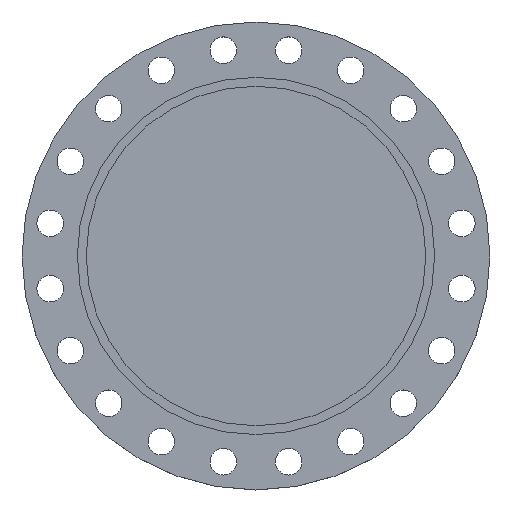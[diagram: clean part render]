
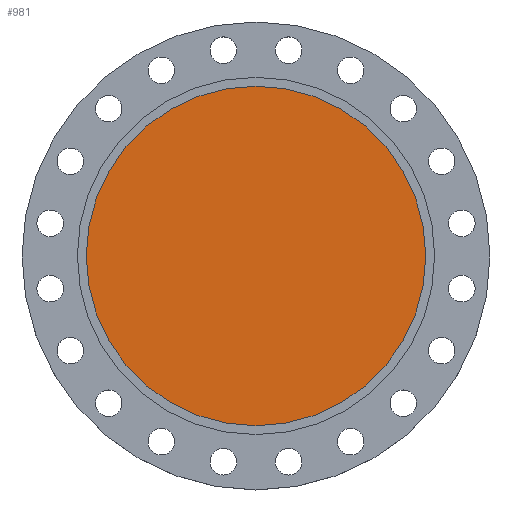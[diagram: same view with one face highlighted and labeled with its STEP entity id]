
A CAD part, top view. The second image highlights one B-rep face of the part: STEP entity #981.
In plain terms, the highlighted planar face has unit normal (0, 0, 1).
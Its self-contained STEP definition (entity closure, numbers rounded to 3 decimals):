
#68 = CIRCLE ( 'NONE', #866, 248.5 ) ;
#101 = DIRECTION ( 'NONE',  ( 0., 0., -1. ) ) ;
#290 = CARTESIAN_POINT ( 'NONE',  ( -248.5, 0., -5.5 ) ) ;
#291 = CARTESIAN_POINT ( 'NONE',  ( 0., 0., -5.5 ) ) ;
#458 = AXIS2_PLACEMENT_3D ( 'NONE', #1299, #1263, #1229 ) ;
#532 = VERTEX_POINT ( 'NONE', #290 ) ;
#684 = EDGE_LOOP ( 'NONE', ( #787, #783 ) ) ;
#783 = ORIENTED_EDGE ( 'NONE', *, *, #1741, .F. ) ;
#787 = ORIENTED_EDGE ( 'NONE', *, *, #1443, .F. ) ;
#866 = AXIS2_PLACEMENT_3D ( 'NONE', #291, #1058, #1623 ) ;
#973 = DIRECTION ( 'NONE',  ( -1., 0., 0. ) ) ;
#981 = ADVANCED_FACE ( 'NONE', ( #1418 ), #1307, .T. ) ;
#1058 = DIRECTION ( 'NONE',  ( 0., 0., -1. ) ) ;
#1075 = VERTEX_POINT ( 'NONE', #1415 ) ;
#1084 = CIRCLE ( 'NONE', #1671, 248.5 ) ;
#1229 = DIRECTION ( 'NONE',  ( 1., 0., 0. ) ) ;
#1263 = DIRECTION ( 'NONE',  ( 0., 0., 1. ) ) ;
#1299 = CARTESIAN_POINT ( 'NONE',  ( 248.5, 0., -5.5 ) ) ;
#1307 = PLANE ( 'NONE',  #458 ) ;
#1415 = CARTESIAN_POINT ( 'NONE',  ( 248.5, 0., -5.5 ) ) ;
#1418 = FACE_OUTER_BOUND ( 'NONE', #684, .T. ) ;
#1443 = EDGE_CURVE ( 'NONE', #532, #1075, #1084, .T. ) ;
#1623 = DIRECTION ( 'NONE',  ( -1., 0., 0. ) ) ;
#1639 = CARTESIAN_POINT ( 'NONE',  ( 0., 0., -5.5 ) ) ;
#1671 = AXIS2_PLACEMENT_3D ( 'NONE', #1639, #101, #973 ) ;
#1741 = EDGE_CURVE ( 'NONE', #1075, #532, #68, .T. ) ;
